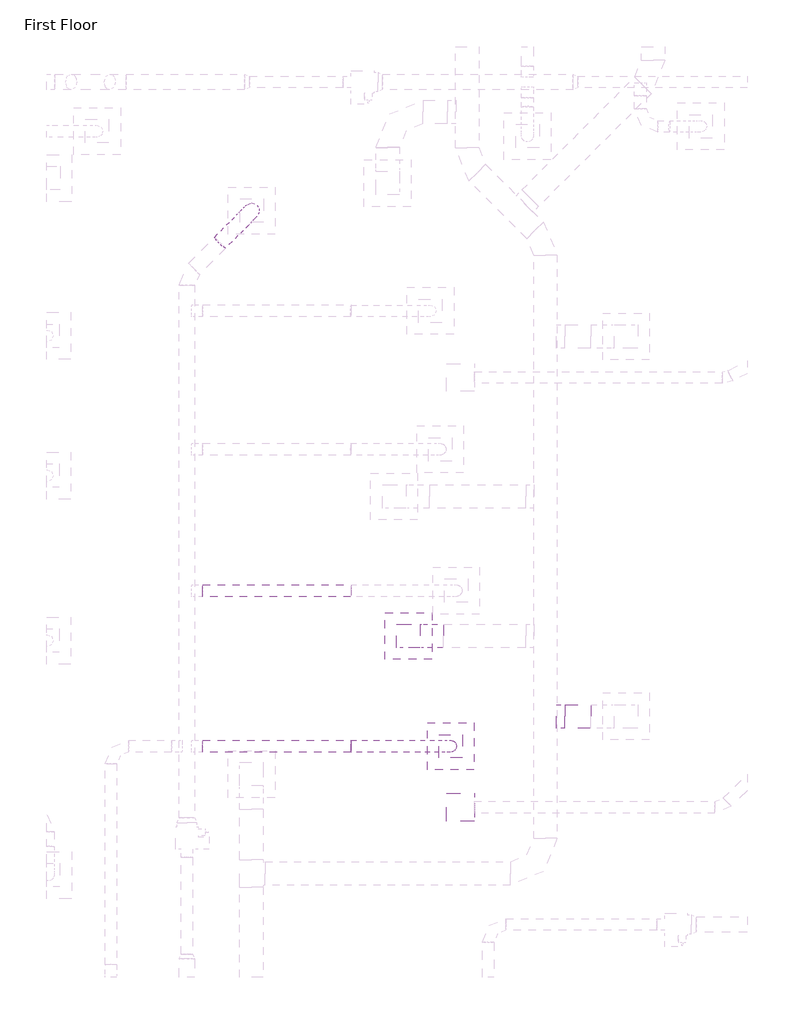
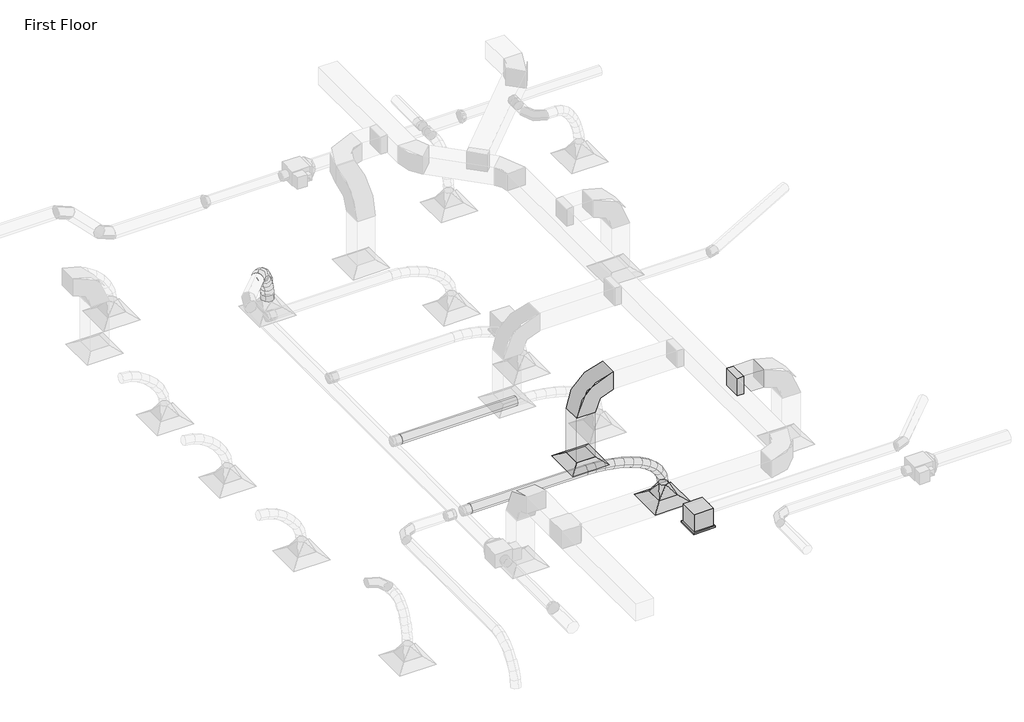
# One storey, part 28 of 61: 6 duct segments, 3 duct fittings, 2 air terminals, 1 proxy.
"""IFC4 building model written with IfcOpenShell, lengths in millimetres."""

from ifc_helpers import new_model, si_unit, point, frame, frame_2d, origin, place, context, project, spatial, polyline, circle_curve, ellipse_curve, trimmed, segment, composite_curve, outline, extrude, transform, mapped, element, save
from ifc_brep_helpers import plane_surface, cylinder_surface, advanced_brep
from components import m_exhaust_grill_er_600_x_600_face_300_x_300_connection_ff221211, proxy_47_84_lps_344db5a5, m_rectangular_elbow_radius_1_5_w_86011e9f, m_rectangular_takeoff_standard_b44bfa45, m_rectangular_to_round_transition_angle_45_degree_8f201c83

model = new_model("IFC4")

# Units and contexts
model_context = context("Model", 3, world=origin())
ifc_project = project(units=[si_unit("LENGTHUNIT", "METRE", prefix="MILLI")], contexts=[model_context])

# Site, building, storey
site = spatial("IfcSite", under=ifc_project)
building = spatial("IfcBuilding", under=site)
storey = spatial("IfcBuildingStorey", under=building, Name="First Floor", Elevation=0.0)

# Air terminals
placement = place(None, origin())
m_exhaust_grill_er_600_x_600_face_300_x_300_connection_shape = m_exhaust_grill_er_600_x_600_face_300_x_300_connection_ff221211(model_context)
element("IfcAirTerminal", 1, ObjectType="M_Return Register : RR-600 x 600 Face 300 x 300 Connection", at=placement, inside=storey, context=model_context, shape_type="MappedRepresentation", body=[
    mapped(m_exhaust_grill_er_600_x_600_face_300_x_300_connection_shape, transform((-6254.2683019, 18610.0, 2680.0), x_axis=(1.0, 0.0, 0.0), y_axis=(0.0, 1.0, 0.0), z_axis=(0.0, 0.0, 1.0))),
])
element("IfcAirTerminal", 2, ObjectType="M_Supply Diffuser : SD-600 x 600 Face 300 x 300 Connection", at=placement, inside=storey, context=model_context, shape_type="MappedRepresentation", body=[
    mapped(m_exhaust_grill_er_600_x_600_face_300_x_300_connection_shape, transform((-5713.0564369, 17198.591812, 2680.0), x_axis=(1.0, 0.0, 0.0), y_axis=(0.0, 1.0, 0.0), z_axis=(0.0, 0.0, 1.0))),
])

# Proxy
proxy_47_84_lps_shape = proxy_47_84_lps_344db5a5(model_context)
element("IfcBuildingElementProxy", 3, Name="M_Exhaust Unit with Cabinet - Round Connection - Ceiling Mounted : 47-84 LPS", ObjectType="M_Exhaust Unit with Cabinet - Round Connection - Ceiling Mounted : 47-84 LPS", at=placement, inside=storey, context=model_context, shape_type="MappedRepresentation", body=[
    mapped(proxy_47_84_lps_shape, transform((-5586.8009033, 16417.4766608, 2680.0), x_axis=(0.0, 1.0000000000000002, 0.0), y_axis=(-1.0000000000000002, 0.0, 0.0), z_axis=(0.0, 0.0, 1.0))),
])

# Duct fittings
m_rectangular_elbow_radius_1_5_w_shape = m_rectangular_elbow_radius_1_5_w_86011e9f(model_context)
element("IfcDuctFitting", 4, ObjectType="M_Rectangular Elbow - Radius : 1.5 W", at=placement, inside=storey, context=model_context, shape_type="MappedRepresentation", body=[
    mapped(m_rectangular_elbow_radius_1_5_w_shape, transform((-6254.2683019, 18610.0, 4000.0), x_axis=(0.0, 0.0, 1.0), y_axis=(1.0, 0.0, 0.0), z_axis=(0.0, 1.0, 0.0))),
])
m_rectangular_takeoff_standard_shape = m_rectangular_takeoff_standard_b44bfa45(model_context)
element("IfcDuctFitting", 5, ObjectType="M_Rectangular Takeoff : Standard", at=placement, inside=storey, context=model_context, shape_type="MappedRepresentation", body=[
    mapped(m_rectangular_takeoff_standard_shape, transform((-4350.4325102, 17580.7276944, 4000.0), x_axis=(1.0, 0.0, 0.0), y_axis=(0.0, -1.0, 0.0), z_axis=(0.0, 0.0, -1.0))),
])
m_rectangular_to_round_transition_angle_45_degree_shape = m_rectangular_to_round_transition_angle_45_degree_8f201c83(model_context)
element("IfcDuctFitting", 6, ObjectType="M_Rectangular to Round Transition - Angle : 45 Degree", at=placement, inside=storey, context=model_context, shape_type="MappedRepresentation", body=[
    mapped(m_rectangular_to_round_transition_angle_45_degree_shape, transform((-5713.0564369, 17198.591812, 2781.6), x_axis=(0.0, 0.0, 1.0), y_axis=(1.0, 0.0, 0.0), z_axis=(0.0, 1.0, 0.0))),
])

# Duct segments
element("IfcDuctSegment", 7, ObjectType="Flex - Round", at=placement, inside=storey, context=model_context, shape_type="AdvancedBrep", body=[
    advanced_brep(
    [(-8735.81417, 23715.3332719, 3619.1), (-8676.2915726, 23633.4049746, 3520.384173), (-8594.2072631, 23574.09771, 3619.1), (-8653.7298606, 23656.0260072, 3717.815827), (-8656.3191201, 23795.0373349, 3600.8834043), (-8606.6838584, 23703.1957056, 3504.4332982), (-8514.5612305, 23653.9531528, 3600.848806), (-8564.1964922, 23745.7947821, 3697.2989121), (-8331.7376894, 24124.2770089, 2902.384291), (-8190.6783132, 24124.6067456, 2912.4909056), (-8189.6139432, 23983.5616256, 2902.2370652), (-8330.6733194, 23983.2318889, 2892.1304507), (-8581.4352587, 23870.4719152, 3550.2782946), (-8547.952452, 23762.3590408, 3464.7437147), (-8439.449156, 23729.6176245, 3550.0894742), (-8472.9319628, 23837.7304989, 3635.624054), (-8512.9323303, 23939.7539297, 3473.2464368), (-8490.5780955, 23820.3859177, 3400.2259872), (-8370.8226299, 23799.0246424, 3472.9186301), (-8393.1768647, 23918.3926544, 3545.9390797), (-8452.6886003, 24000.8911623, 3375.7989694), (-8438.0488633, 23873.6942353, 3315.2571341), (-8310.5247218, 23860.2168566, 3375.3835269), (-8325.1644589, 23987.4137836, 3435.9253622), (-8402.5778311, 24051.8957382, 3263.9591631), (-8393.545166, 23918.9917281, 3215.9314808), (-8260.4030043, 23911.2325762, 3263.5192854), (-8269.4356694, 24044.1365863, 3311.5469677), (-8364.4690387, 24090.7844791, 3143.751017), (-8359.6843909, 23953.5455101, 3109.1230323), (-8222.3097962, 23950.1054137, 3143.3602978), (-8227.094444, 24087.3443826, 3177.9882825), (-8340.2297836, 24115.5756147, 3021.1934802), (-8338.5426719, 23975.1685848, 3002.2271316), (-8198.0988721, 23974.8675734, 3020.9460067), (-8199.7859838, 24115.2746032, 3039.9123553)],
    [
        (0, 1, circle_curve(frame((-8665.0107166, 23644.7154909, 3619.1), z_axis=(-0.6971092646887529, -0.6989421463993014, 0.15974526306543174), x_axis=(-0.7080345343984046, 0.7061778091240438, 0.0)), 100.0)),
        (1, 2, circle_curve(frame((-8665.0107166, 23644.7154909, 3619.1), z_axis=(-0.6971092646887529, -0.6989421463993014, 0.15974526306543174), x_axis=(-0.7080345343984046, 0.7061778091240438, 0.0)), 100.0)),
        (2, 3, circle_curve(frame((-8665.0107166, 23644.7154909, 3619.1), z_axis=(-0.6971092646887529, -0.6989421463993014, 0.15974526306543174), x_axis=(-0.7080345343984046, 0.7061778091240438, 0.0)), 100.0)),
        (3, 0, circle_curve(frame((-8665.0107166, 23644.7154909, 3619.1), z_axis=(-0.6971092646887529, -0.6989421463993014, 0.15974526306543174), x_axis=(-0.7080345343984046, 0.7061778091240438, 0.0)), 100.0)),
        (0, 4),
        (4, 5, ellipse_curve(frame((-8585.4401753, 23724.4952438, 3600.8661051), z_axis=(-0.6733778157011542, -0.6766663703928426, 0.29780016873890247), x_axis=(-0.21561036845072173, -0.2055554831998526, -0.9545989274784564)), 101.0161492, 100.0)),
        (5, 1),
        (5, 6, ellipse_curve(frame((-8585.4401753, 23724.4952438, 3600.8661051), z_axis=(-0.6733778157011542, -0.6766663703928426, 0.29780016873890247), x_axis=(-0.21561036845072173, -0.2055554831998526, -0.9545989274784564)), 101.0161492, 100.0)),
        (6, 2),
        (6, 7, ellipse_curve(frame((-8585.4401753, 23724.4952438, 3600.8661051), z_axis=(-0.6733778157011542, -0.6766663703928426, 0.29780016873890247), x_axis=(-0.21561036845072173, -0.2055554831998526, -0.9545989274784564)), 101.0161492, 100.0)),
        (7, 3),
        (7, 4, ellipse_curve(frame((-8585.4401753, 23724.4952438, 3600.8661051), z_axis=(-0.6733778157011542, -0.6766663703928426, 0.29780016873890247), x_axis=(-0.21561036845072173, -0.2055554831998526, -0.9545989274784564)), 101.0161492, 100.0)),
        (8, 9, circle_curve(frame((-8260.6758163, 24053.9193172, 2902.3106781), z_axis=(0.07110537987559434, 0.07285787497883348, -0.9948043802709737), x_axis=(-0.710618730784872, 0.7035769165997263, 0.0007361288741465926)), 100.0)),
        (9, 10, circle_curve(frame((-8260.6758163, 24053.9193172, 2902.3106781), z_axis=(0.07110537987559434, 0.07285787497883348, -0.9948043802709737), x_axis=(-0.710618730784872, 0.7035769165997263, 0.0007361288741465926)), 100.0)),
        (10, 11, circle_curve(frame((-8260.6758163, 24053.9193172, 2902.3106781), z_axis=(0.07110537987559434, 0.07285787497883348, -0.9948043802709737), x_axis=(-0.710618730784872, 0.7035769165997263, 0.0007361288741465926)), 100.0)),
        (11, 8, circle_curve(frame((-8260.6758163, 24053.9193172, 2902.3106781), z_axis=(0.07110537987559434, 0.07285787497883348, -0.9948043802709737), x_axis=(-0.710618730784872, 0.7035769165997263, 0.0007361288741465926)), 100.0)),
        (4, 12),
        (12, 13, ellipse_curve(frame((-8510.4422074, 23800.0447699, 3550.1838844), z_axis=(-0.5975845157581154, -0.6030946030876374, 0.528365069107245), x_axis=(-0.37717659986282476, -0.3700641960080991, -0.8489937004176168)), 100.6342897, 100.0)),
        (13, 5),
        (13, 14, ellipse_curve(frame((-8510.4422074, 23800.0447699, 3550.1838844), z_axis=(-0.5975845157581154, -0.6030946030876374, 0.528365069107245), x_axis=(-0.37717659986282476, -0.3700641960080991, -0.8489937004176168)), 100.6342897, 100.0)),
        (14, 6),
        (14, 15, ellipse_curve(frame((-8510.4422074, 23800.0447699, 3550.1838844), z_axis=(-0.5975845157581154, -0.6030946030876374, 0.528365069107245), x_axis=(-0.37717659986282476, -0.3700641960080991, -0.8489937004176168)), 100.6342897, 100.0)),
        (15, 7),
        (15, 12, ellipse_curve(frame((-8510.4422074, 23800.0447699, 3550.1838844), z_axis=(-0.5975845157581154, -0.6030946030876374, 0.528365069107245), x_axis=(-0.37717659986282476, -0.3700641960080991, -0.8489937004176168)), 100.6342897, 100.0)),
        (12, 16),
        (16, 17, ellipse_curve(frame((-8441.8774801, 23869.389286, 3473.0825335), z_axis=(-0.5097848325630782, -0.5163880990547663, 0.6880862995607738), x_axis=(-0.4882541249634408, -0.4848661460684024, -0.7256119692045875)), 100.4049703, 100.0)),
        (17, 13),
        (17, 18, ellipse_curve(frame((-8441.8774801, 23869.389286, 3473.0825335), z_axis=(-0.5097848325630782, -0.5163880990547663, 0.6880862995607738), x_axis=(-0.4882541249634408, -0.4848661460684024, -0.7256119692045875)), 100.4049703, 100.0)),
        (18, 14),
        (18, 19, ellipse_curve(frame((-8441.8774801, 23869.389286, 3473.0825335), z_axis=(-0.5097848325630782, -0.5163880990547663, 0.6880862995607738), x_axis=(-0.4882541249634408, -0.4848661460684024, -0.7256119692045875)), 100.4049703, 100.0)),
        (19, 15),
        (19, 16, ellipse_curve(frame((-8441.8774801, 23869.389286, 3473.0825335), z_axis=(-0.5097848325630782, -0.5163880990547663, 0.6880862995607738), x_axis=(-0.4882541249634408, -0.4848661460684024, -0.7256119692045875)), 100.4049703, 100.0)),
        (16, 20),
        (20, 21, ellipse_curve(frame((-8381.6066611, 23930.5540095, 3375.5912482), z_axis=(-0.4219497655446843, -0.42877679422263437, 0.79881716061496), x_axis=(-0.5643732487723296, -0.565334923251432, -0.6015640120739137)), 100.2943754, 100.0)),
        (21, 17),
        (21, 22, ellipse_curve(frame((-8381.6066611, 23930.5540095, 3375.5912482), z_axis=(-0.4219497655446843, -0.42877679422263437, 0.79881716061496), x_axis=(-0.5643732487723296, -0.565334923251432, -0.6015640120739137)), 100.2943754, 100.0)),
        (22, 18),
        (22, 23, ellipse_curve(frame((-8381.6066611, 23930.5540095, 3375.5912482), z_axis=(-0.4219497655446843, -0.42877679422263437, 0.79881716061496), x_axis=(-0.5643732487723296, -0.565334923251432, -0.6015640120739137)), 100.2943754, 100.0)),
        (23, 19),
        (23, 20, ellipse_curve(frame((-8381.6066611, 23930.5540095, 3375.5912482), z_axis=(-0.4219497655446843, -0.42877679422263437, 0.79881716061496), x_axis=(-0.5643732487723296, -0.565334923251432, -0.6015640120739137)), 100.2943754, 100.0)),
        (20, 24),
        (24, 25, ellipse_curve(frame((-8331.4904177, 23981.5641572, 3263.7392242), z_axis=(-0.3340012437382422, -0.3403393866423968, 0.8789836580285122), x_axis=(-0.6186606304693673, -0.6243999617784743, -0.4768476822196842)), 100.258072, 100.0)),
        (25, 21),
        (25, 26, ellipse_curve(frame((-8331.4904177, 23981.5641572, 3263.7392242), z_axis=(-0.3340012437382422, -0.3403393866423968, 0.8789836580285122), x_axis=(-0.6186606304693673, -0.6243999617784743, -0.4768476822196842)), 100.258072, 100.0)),
        (26, 22),
        (26, 27, ellipse_curve(frame((-8331.4904177, 23981.5641572, 3263.7392242), z_axis=(-0.3340012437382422, -0.3403393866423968, 0.8789836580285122), x_axis=(-0.6186606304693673, -0.6243999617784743, -0.4768476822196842)), 100.258072, 100.0)),
        (27, 23),
        (27, 24, ellipse_curve(frame((-8331.4904177, 23981.5641572, 3263.7392242), z_axis=(-0.3340012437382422, -0.3403393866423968, 0.8789836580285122), x_axis=(-0.6186606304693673, -0.6243999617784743, -0.4768476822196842)), 100.258072, 100.0)),
        (24, 28),
        (28, 29, ellipse_curve(frame((-8293.3894175, 24020.4449464, 3143.5556574), z_axis=(-0.24021689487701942, -0.2453528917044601, 0.9392006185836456), x_axis=(-0.6588179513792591, -0.6693709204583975, -0.3433678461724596)), 100.2804284, 100.0)),
        (29, 25),
        (29, 30, ellipse_curve(frame((-8293.3894175, 24020.4449464, 3143.5556574), z_axis=(-0.24021689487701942, -0.2453528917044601, 0.9392006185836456), x_axis=(-0.6588179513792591, -0.6693709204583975, -0.3433678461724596)), 100.2804284, 100.0)),
        (30, 26),
        (30, 31, ellipse_curve(frame((-8293.3894175, 24020.4449464, 3143.5556574), z_axis=(-0.24021689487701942, -0.2453528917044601, 0.9392006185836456), x_axis=(-0.6588179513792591, -0.6693709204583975, -0.3433678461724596)), 100.2804284, 100.0)),
        (31, 27),
        (31, 28, ellipse_curve(frame((-8293.3894175, 24020.4449464, 3143.5556574), z_axis=(-0.24021689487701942, -0.2453528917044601, 0.9392006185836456), x_axis=(-0.6588179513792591, -0.6693709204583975, -0.3433678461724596)), 100.2804284, 100.0)),
        (28, 32),
        (32, 33, ellipse_curve(frame((-8269.1643278, 24045.221594, 3021.0697434), z_axis=(-0.13120205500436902, -0.134256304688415, 0.9822226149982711), x_axis=(-0.6870598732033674, -0.7019330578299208, -0.1877197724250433)), 100.3784105, 100.0)),
        (33, 29),
        (33, 34, ellipse_curve(frame((-8269.1643278, 24045.221594, 3021.0697434), z_axis=(-0.13120205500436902, -0.134256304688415, 0.9822226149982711), x_axis=(-0.6870598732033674, -0.7019330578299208, -0.1877197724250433)), 100.3784105, 100.0)),
        (34, 30),
        (34, 35, ellipse_curve(frame((-8269.1643278, 24045.221594, 3021.0697434), z_axis=(-0.13120205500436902, -0.134256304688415, 0.9822226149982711), x_axis=(-0.6870598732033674, -0.7019330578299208, -0.1877197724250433)), 100.3784105, 100.0)),
        (35, 31),
        (35, 32, ellipse_curve(frame((-8269.1643278, 24045.221594, 3021.0697434), z_axis=(-0.13120205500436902, -0.134256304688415, 0.9822226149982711), x_axis=(-0.6870598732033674, -0.7019330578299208, -0.1877197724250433)), 100.3784105, 100.0)),
        (32, 8),
        (11, 33),
        (10, 34),
        (9, 35),
    ],
    [
        plane_surface(frame((-8665.0107166, 23666.9962556, 3716.5862427), z_axis=(-0.6971092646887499, -0.6989421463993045, 0.15974526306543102), x_axis=(0.7169649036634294, -0.6795856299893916, 0.15532127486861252))),
        cylinder_surface(frame((-8665.0107166, 23644.7154909, 3619.1), z_axis=(-0.6971092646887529, -0.6989421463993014, 0.15974526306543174), x_axis=(-0.7080345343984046, 0.7061778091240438, 0.0)), 100.0),
        plane_surface(frame((-8260.6758163, 24153.6521982, 2909.6149541), z_axis=(0.07110537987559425, 0.07285787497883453, -0.9948043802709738), x_axis=(0.9974688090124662, -0.005193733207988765, 0.0709154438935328))),
        cylinder_surface(frame((-8585.4401753, 23724.4952438, 3600.8661051), z_axis=(-0.6360989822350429, -0.6407770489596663, 0.4298637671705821), x_axis=(-0.7094782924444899, 0.7047270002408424, 0.0006384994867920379)), 100.0),
        cylinder_surface(frame((-8510.4422074, 23800.0447699, 3550.1838844), z_axis=(-0.551536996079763, -0.5578096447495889, 0.6202058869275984), x_axis=(-0.7103226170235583, 0.7038748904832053, 0.0013850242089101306)), 100.0),
        cylinder_surface(frame((-8441.8774801, 23869.389286, 3473.0825335), z_axis=(-0.4639203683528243, -0.47080098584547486, 0.7504161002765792), x_axis=(-0.7107385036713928, 0.7034536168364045, 0.0019463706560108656)), 100.0),
        cylinder_surface(frame((-8381.6066611, 23930.5540095, 3375.5912482), z_axis=(-0.3775022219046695, -0.3842355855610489, 0.8425289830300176), x_axis=(-0.7108852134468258, 0.7033045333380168, 0.002224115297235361)), 100.0),
        cylinder_surface(frame((-8331.4904177, 23981.5641572, 3263.7392242), z_axis=(-0.2887807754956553, -0.2946910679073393, 0.9109131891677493), x_axis=(-0.710865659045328, 0.7033244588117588, 0.002172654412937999)), 100.0),
        cylinder_surface(frame((-8293.3894175, 24020.4449464, 3143.5556574), z_axis=(-0.1903095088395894, -0.1946424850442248, 0.9622352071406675), x_axis=(-0.710750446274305, 0.7034421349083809, 0.0017221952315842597)), 100.0),
        cylinder_surface(frame((-8269.1643278, 24045.221594, 3021.0697434), z_axis=(-0.07110537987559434, -0.07285787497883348, 0.9948043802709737), x_axis=(-0.710618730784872, 0.7035769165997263, 0.0007361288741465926)), 100.0),
    ],
    [
        (0, [[1, 2, 3, 4]]),
        (1, [[-1, 5, 6, 7]]),
        (1, [[-2, -7, 8, 9]]),
        (1, [[-3, -9, 10, 11]]),
        (1, [[-4, -11, 12, -5]]),
        (2, [[13, 14, 15, 16]]),
        (3, [[-6, 17, 18, 19]]),
        (3, [[-8, -19, 20, 21]]),
        (3, [[-10, -21, 22, 23]]),
        (3, [[-12, -23, 24, -17]]),
        (4, [[-18, 25, 26, 27]]),
        (4, [[-20, -27, 28, 29]]),
        (4, [[-22, -29, 30, 31]]),
        (4, [[-24, -31, 32, -25]]),
        (5, [[-26, 33, 34, 35]]),
        (5, [[-28, -35, 36, 37]]),
        (5, [[-30, -37, 38, 39]]),
        (5, [[-32, -39, 40, -33]]),
        (6, [[-34, 41, 42, 43]]),
        (6, [[-36, -43, 44, 45]]),
        (6, [[-38, -45, 46, 47]]),
        (6, [[-40, -47, 48, -41]]),
        (7, [[-42, 49, 50, 51]]),
        (7, [[-44, -51, 52, 53]]),
        (7, [[-46, -53, 54, 55]]),
        (7, [[-48, -55, 56, -49]]),
        (8, [[-50, 57, 58, 59]]),
        (8, [[-52, -59, 60, 61]]),
        (8, [[-54, -61, 62, 63]]),
        (8, [[-56, -63, 64, -57]]),
        (9, [[-58, 65, -16, 66]]),
        (9, [[-60, -66, -15, 67]]),
        (9, [[-62, -67, -14, 68]]),
        (9, [[-64, -68, -13, -65]]),
    ],
),
])
element("IfcDuctSegment", 8, ObjectType="Flex - Round", at=placement, inside=storey, context=model_context, shape_type="AdvancedBrep", body=[
    advanced_brep(
    [(-6989.2747853, 17273.591812, 3619.1), (-6991.7306327, 17198.591812, 3544.1402187), (-6989.2747853, 17123.591812, 3619.1), (-6986.8189379, 17198.591812, 3694.0597813), (-6851.7261844, 17273.591812, 3614.5936051), (-6856.4533786, 17198.591812, 3539.7082381), (-6851.7261844, 17123.591812, 3614.5936051), (-6846.9989901, 17198.591812, 3689.4789721), (-5713.0564369, 17273.591812, 2962.6660172), (-5638.9286616, 17198.591812, 2974.070969), (-5713.0564369, 17123.591812, 2962.6660172), (-5787.1842122, 17198.591812, 2951.2610653), (-6703.3734425, 17273.591812, 3600.7069488), (-6712.6040329, 17198.591812, 3526.2431252), (-6703.3734425, 17123.591812, 3600.7069488), (-6694.1428522, 17198.591812, 3675.1707724), (-6549.2531901, 17273.591812, 3576.8888233), (-6563.1049949, 17198.591812, 3503.1391736), (-6549.2531901, 17123.591812, 3576.8888233), (-6535.4013853, 17198.591812, 3650.638473), (-6394.4020575, 17273.591812, 3542.5880212), (-6413.3512998, 17198.591812, 3469.9674959), (-6394.4020575, 17123.591812, 3542.5880212), (-6375.4528153, 17198.591812, 3615.2085465), (-6243.8566752, 17273.591812, 3497.2533346), (-6268.7410001, 17198.591812, 3426.4200785), (-6243.8566752, 17123.591812, 3497.2533346), (-6218.9723503, 17198.591812, 3568.0865908), (-6102.6536734, 17273.591812, 3440.3335561), (-6134.7133836, 17198.591812, 3372.3927409), (-6102.6536734, 17123.591812, 3440.3335561), (-6070.5939633, 17198.591812, 3508.2743714), (-5975.8296826, 17273.591812, 3371.277478), (-6016.7084769, 17198.591812, 3308.1386829), (-5975.8296826, 17123.591812, 3371.277478), (-5934.9508884, 17198.591812, 3434.4162731), (-5868.4213332, 17273.591812, 3289.5338927), (-5919.9012576, 17198.591812, 3234.4631332), (-5868.4213332, 17123.591812, 3289.5338927), (-5816.9414088, 17198.591812, 3344.6046522), (-5785.4652555, 17273.591812, 3194.5515925), (-5848.4300808, 17198.591812, 3152.630711), (-5785.4652555, 17123.591812, 3194.5515925), (-5722.5004303, 17198.591812, 3236.472474), (-5731.9980799, 17273.591812, 3085.7793699), (-5804.3776139, 17198.591812, 3063.0115254), (-5731.9980799, 17123.591812, 3085.7793699), (-5659.618546, 17198.591812, 3108.5472144)],
    [
        (0, 1, circle_curve(frame((-6989.2747853, 17198.591812, 3619.1), z_axis=(-0.9994637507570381, 0.0, 0.032744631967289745), x_axis=(0.0, 1.0, 0.0)), 75.0)),
        (1, 2, circle_curve(frame((-6989.2747853, 17198.591812, 3619.1), z_axis=(-0.9994637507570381, 0.0, 0.032744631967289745), x_axis=(0.0, 1.0, 0.0)), 75.0)),
        (2, 3, circle_curve(frame((-6989.2747853, 17198.591812, 3619.1), z_axis=(-0.9994637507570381, 0.0, 0.032744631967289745), x_axis=(0.0, 1.0, 0.0)), 75.0)),
        (3, 0, circle_curve(frame((-6989.2747853, 17198.591812, 3619.1), z_axis=(-0.9994637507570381, 0.0, 0.032744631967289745), x_axis=(0.0, 1.0, 0.0)), 75.0)),
        (0, 4),
        (4, 5, ellipse_curve(frame((-6851.7261844, 17198.591812, 3614.5936051), z_axis=(-0.998013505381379, 0.0, 0.06300034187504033), x_axis=(-0.06300034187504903, 0.0, -0.9980135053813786)), 75.0344225, 75.0)),
        (5, 1),
        (5, 6, ellipse_curve(frame((-6851.7261844, 17198.591812, 3614.5936051), z_axis=(-0.998013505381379, 0.0, 0.06300034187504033), x_axis=(-0.06300034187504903, 0.0, -0.9980135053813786)), 75.0344225, 75.0)),
        (6, 2),
        (6, 7, ellipse_curve(frame((-6851.7261844, 17198.591812, 3614.5936051), z_axis=(-0.998013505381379, 0.0, 0.06300034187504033), x_axis=(-0.06300034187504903, 0.0, -0.9980135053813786)), 75.0344225, 75.0)),
        (7, 3),
        (7, 4, ellipse_curve(frame((-6851.7261844, 17198.591812, 3614.5936051), z_axis=(-0.998013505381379, 0.0, 0.06300034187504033), x_axis=(-0.06300034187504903, 0.0, -0.9980135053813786)), 75.0344225, 75.0)),
        (8, 9, circle_curve(frame((-5713.0564369, 17198.591812, 2962.6660172), z_axis=(0.15206602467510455, 0.0, -0.9883703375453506), x_axis=(0.0, 1.0, 0.0)), 75.0)),
        (9, 10, circle_curve(frame((-5713.0564369, 17198.591812, 2962.6660172), z_axis=(0.15206602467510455, 0.0, -0.9883703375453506), x_axis=(0.0, 1.0, 0.0)), 75.0)),
        (10, 11, circle_curve(frame((-5713.0564369, 17198.591812, 2962.6660172), z_axis=(0.15206602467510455, 0.0, -0.9883703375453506), x_axis=(0.0, 1.0, 0.0)), 75.0)),
        (11, 8, circle_curve(frame((-5713.0564369, 17198.591812, 2962.6660172), z_axis=(0.15206602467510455, 0.0, -0.9883703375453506), x_axis=(0.0, 1.0, 0.0)), 75.0)),
        (4, 12),
        (12, 13, ellipse_curve(frame((-6703.3734425, 17198.591812, 3600.7069488), z_axis=(-0.992404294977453, 0.0, 0.12301916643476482), x_axis=(-0.12301916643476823, 0.0, -0.9924042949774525)), 75.0337579, 75.0)),
        (13, 5),
        (13, 14, ellipse_curve(frame((-6703.3734425, 17198.591812, 3600.7069488), z_axis=(-0.992404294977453, 0.0, 0.12301916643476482), x_axis=(-0.12301916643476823, 0.0, -0.9924042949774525)), 75.0337579, 75.0)),
        (14, 6),
        (14, 15, ellipse_curve(frame((-6703.3734425, 17198.591812, 3600.7069488), z_axis=(-0.992404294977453, 0.0, 0.12301916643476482), x_axis=(-0.12301916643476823, 0.0, -0.9924042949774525)), 75.0337579, 75.0)),
        (15, 7),
        (15, 12, ellipse_curve(frame((-6703.3734425, 17198.591812, 3600.7069488), z_axis=(-0.992404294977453, 0.0, 0.12301916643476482), x_axis=(-0.12301916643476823, 0.0, -0.9924042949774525)), 75.0337579, 75.0)),
        (12, 16),
        (16, 17, ellipse_curve(frame((-6549.2531901, 17198.591812, 3576.8888233), z_axis=(-0.9828148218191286, 0.0, 0.18459421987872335), x_axis=(-0.18459421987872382, 0.0, -0.9828148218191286)), 75.0392119, 75.0)),
        (17, 13),
        (17, 18, ellipse_curve(frame((-6549.2531901, 17198.591812, 3576.8888233), z_axis=(-0.9828148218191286, 0.0, 0.18459421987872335), x_axis=(-0.18459421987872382, 0.0, -0.9828148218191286)), 75.0392119, 75.0)),
        (18, 14),
        (18, 19, ellipse_curve(frame((-6549.2531901, 17198.591812, 3576.8888233), z_axis=(-0.9828148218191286, 0.0, 0.18459421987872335), x_axis=(-0.18459421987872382, 0.0, -0.9828148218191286)), 75.0392119, 75.0)),
        (19, 15),
        (19, 16, ellipse_curve(frame((-6549.2531901, 17198.591812, 3576.8888233), z_axis=(-0.9828148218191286, 0.0, 0.18459421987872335), x_axis=(-0.18459421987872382, 0.0, -0.9828148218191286)), 75.0392119, 75.0)),
        (16, 20),
        (20, 21, ellipse_curve(frame((-6394.4020575, 17198.591812, 3542.5880212), z_axis=(-0.9676017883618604, 0.0, 0.25248124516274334), x_axis=(-0.2524812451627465, 0.0, -0.9676017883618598)), 75.0520784, 75.0)),
        (21, 17),
        (21, 22, ellipse_curve(frame((-6394.4020575, 17198.591812, 3542.5880212), z_axis=(-0.9676017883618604, 0.0, 0.25248124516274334), x_axis=(-0.2524812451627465, 0.0, -0.9676017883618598)), 75.0520784, 75.0)),
        (22, 18),
        (22, 23, ellipse_curve(frame((-6394.4020575, 17198.591812, 3542.5880212), z_axis=(-0.9676017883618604, 0.0, 0.25248124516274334), x_axis=(-0.2524812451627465, 0.0, -0.9676017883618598)), 75.0520784, 75.0)),
        (23, 19),
        (23, 20, ellipse_curve(frame((-6394.4020575, 17198.591812, 3542.5880212), z_axis=(-0.9676017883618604, 0.0, 0.25248124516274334), x_axis=(-0.2524812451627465, 0.0, -0.9676017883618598)), 75.0520784, 75.0)),
        (20, 24),
        (24, 25, ellipse_curve(frame((-6243.8566752, 17198.591812, 3497.2533346), z_axis=(-0.9434727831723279, 0.0, 0.3314500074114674), x_axis=(-0.33145000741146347, 0.0, -0.9434727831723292)), 75.077159, 75.0)),
        (25, 21),
        (25, 26, ellipse_curve(frame((-6243.8566752, 17198.591812, 3497.2533346), z_axis=(-0.9434727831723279, 0.0, 0.3314500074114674), x_axis=(-0.33145000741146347, 0.0, -0.9434727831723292)), 75.077159, 75.0)),
        (26, 22),
        (26, 27, ellipse_curve(frame((-6243.8566752, 17198.591812, 3497.2533346), z_axis=(-0.9434727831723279, 0.0, 0.3314500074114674), x_axis=(-0.33145000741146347, 0.0, -0.9434727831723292)), 75.077159, 75.0)),
        (27, 23),
        (27, 24, ellipse_curve(frame((-6243.8566752, 17198.591812, 3497.2533346), z_axis=(-0.9434727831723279, 0.0, 0.3314500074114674), x_axis=(-0.33145000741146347, 0.0, -0.9434727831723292)), 75.077159, 75.0)),
        (24, 28),
        (28, 29, ellipse_curve(frame((-6102.6536734, 17198.591812, 3440.3335561), z_axis=(-0.9043691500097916, 0.0, 0.4267510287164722), x_axis=(-0.42675102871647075, 0.0, -0.9043691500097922)), 75.1250916, 75.0)),
        (29, 25),
        (29, 30, ellipse_curve(frame((-6102.6536734, 17198.591812, 3440.3335561), z_axis=(-0.9043691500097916, 0.0, 0.4267510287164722), x_axis=(-0.42675102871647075, 0.0, -0.9043691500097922)), 75.1250916, 75.0)),
        (30, 26),
        (30, 31, ellipse_curve(frame((-6102.6536734, 17198.591812, 3440.3335561), z_axis=(-0.9043691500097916, 0.0, 0.4267510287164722), x_axis=(-0.42675102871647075, 0.0, -0.9043691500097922)), 75.1250916, 75.0)),
        (31, 27),
        (31, 28, ellipse_curve(frame((-6102.6536734, 17198.591812, 3440.3335561), z_axis=(-0.9043691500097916, 0.0, 0.4267510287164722), x_axis=(-0.42675102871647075, 0.0, -0.9043691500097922)), 75.1250916, 75.0)),
        (28, 32),
        (32, 33, ellipse_curve(frame((-5975.8296826, 17198.591812, 3371.277478), z_axis=(-0.8394228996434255, 0.0, 0.54347879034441), x_axis=(-0.5434787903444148, 0.0, -0.8394228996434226)), 75.2169081, 75.0)),
        (33, 29),
        (33, 34, ellipse_curve(frame((-5975.8296826, 17198.591812, 3371.277478), z_axis=(-0.8394228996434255, 0.0, 0.54347879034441), x_axis=(-0.5434787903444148, 0.0, -0.8394228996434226)), 75.2169081, 75.0)),
        (34, 30),
        (34, 35, ellipse_curve(frame((-5975.8296826, 17198.591812, 3371.277478), z_axis=(-0.8394228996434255, 0.0, 0.54347879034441), x_axis=(-0.5434787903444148, 0.0, -0.8394228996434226)), 75.2169081, 75.0)),
        (35, 31),
        (35, 32, ellipse_curve(frame((-5975.8296826, 17198.591812, 3371.277478), z_axis=(-0.8394228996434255, 0.0, 0.54347879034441), x_axis=(-0.5434787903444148, 0.0, -0.8394228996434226)), 75.2169081, 75.0)),
        (32, 36),
        (36, 37, ellipse_curve(frame((-5868.4213332, 17198.591812, 3289.5338927), z_axis=(-0.7305220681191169, 0.0, 0.682889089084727), x_axis=(-0.6828890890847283, 0.0, -0.7305220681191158)), 75.3854838, 75.0)),
        (37, 33),
        (37, 38, ellipse_curve(frame((-5868.4213332, 17198.591812, 3289.5338927), z_axis=(-0.7305220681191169, 0.0, 0.682889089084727), x_axis=(-0.6828890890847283, 0.0, -0.7305220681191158)), 75.3854838, 75.0)),
        (38, 34),
        (38, 39, ellipse_curve(frame((-5868.4213332, 17198.591812, 3289.5338927), z_axis=(-0.7305220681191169, 0.0, 0.682889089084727), x_axis=(-0.6828890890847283, 0.0, -0.7305220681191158)), 75.3854838, 75.0)),
        (39, 35),
        (39, 36, ellipse_curve(frame((-5868.4213332, 17198.591812, 3289.5338927), z_axis=(-0.7305220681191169, 0.0, 0.682889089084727), x_axis=(-0.6828890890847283, 0.0, -0.7305220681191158)), 75.3854838, 75.0)),
        (36, 40),
        (40, 41, ellipse_curve(frame((-5785.4652555, 17198.591812, 3194.5515925), z_axis=(-0.5541905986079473, 0.0, 0.8323898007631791), x_axis=(-0.8323898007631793, 0.0, -0.5541905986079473)), 75.6434368, 75.0)),
        (41, 37),
        (41, 42, ellipse_curve(frame((-5785.4652555, 17198.591812, 3194.5515925), z_axis=(-0.5541905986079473, 0.0, 0.8323898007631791), x_axis=(-0.8323898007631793, 0.0, -0.5541905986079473)), 75.6434368, 75.0)),
        (42, 38),
        (42, 43, ellipse_curve(frame((-5785.4652555, 17198.591812, 3194.5515925), z_axis=(-0.5541905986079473, 0.0, 0.8323898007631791), x_axis=(-0.8323898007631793, 0.0, -0.5541905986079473)), 75.6434368, 75.0)),
        (43, 39),
        (43, 40, ellipse_curve(frame((-5785.4652555, 17198.591812, 3194.5515925), z_axis=(-0.5541905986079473, 0.0, 0.8323898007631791), x_axis=(-0.8323898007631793, 0.0, -0.5541905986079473)), 75.6434368, 75.0)),
        (40, 44),
        (44, 45, ellipse_curve(frame((-5731.9980799, 17198.591812, 3085.7793699), z_axis=(-0.3000663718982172, 0.0, 0.9539183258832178), x_axis=(-0.9539183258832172, 0.0, -0.3000663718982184)), 75.8760284, 75.0)),
        (45, 41),
        (45, 46, ellipse_curve(frame((-5731.9980799, 17198.591812, 3085.7793699), z_axis=(-0.3000663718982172, 0.0, 0.9539183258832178), x_axis=(-0.9539183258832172, 0.0, -0.3000663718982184)), 75.8760284, 75.0)),
        (46, 42),
        (46, 47, ellipse_curve(frame((-5731.9980799, 17198.591812, 3085.7793699), z_axis=(-0.3000663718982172, 0.0, 0.9539183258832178), x_axis=(-0.9539183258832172, 0.0, -0.3000663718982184)), 75.8760284, 75.0)),
        (47, 43),
        (47, 44, ellipse_curve(frame((-5731.9980799, 17198.591812, 3085.7793699), z_axis=(-0.3000663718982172, 0.0, 0.9539183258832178), x_axis=(-0.9539183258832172, 0.0, -0.3000663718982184)), 75.8760284, 75.0)),
        (44, 8),
        (11, 45),
        (10, 46),
        (9, 47),
    ],
    [
        plane_surface(frame((-6989.2747853, 17273.591812, 3619.1), z_axis=(-0.9994637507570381, 0.0, 0.03274463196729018), x_axis=(0.03274463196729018, 0.0, 0.9994637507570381))),
        cylinder_surface(frame((-6989.2747853, 17198.591812, 3619.1), z_axis=(-0.9994637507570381, 0.0, 0.032744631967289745), x_axis=(0.0, 1.0, 0.0)), 75.0),
        plane_surface(frame((-5713.0564369, 17273.591812, 2962.6660172), z_axis=(0.1520660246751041, 0.0, -0.9883703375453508), x_axis=(0.9883703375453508, 0.0, 0.1520660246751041))),
        cylinder_surface(frame((-6851.7261844, 17198.591812, 3614.5936051), z_axis=(-0.9956475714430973, 0.0, 0.09319824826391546), x_axis=(0.0, 1.0, 0.0)), 75.0),
        cylinder_surface(frame((-6703.3734425, 17198.591812, 3600.7069488), z_axis=(-0.9882680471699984, 0.0, 0.15272939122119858), x_axis=(0.0, 1.0, 0.0)), 75.0),
        cylinder_surface(frame((-6549.2531901, 17198.591812, 3576.8888233), z_axis=(-0.9763344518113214, 0.0, 0.21626612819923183), x_axis=(0.0, 1.0, 0.0)), 75.0),
        cylinder_surface(frame((-6394.4020575, 17198.591812, 3542.5880212), z_axis=(-0.9575262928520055, 0.0, 0.288345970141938), x_axis=(0.0, 1.0, 0.0)), 75.0),
        cylinder_surface(frame((-6243.8566752, 17198.591812, 3497.2533346), z_axis=(-0.9274800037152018, 0.0, 0.37387276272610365), x_axis=(0.0, 1.0, 0.0)), 75.0),
        cylinder_surface(frame((-6102.6536734, 17198.591812, 3440.3335561), z_axis=(-0.8782465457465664, 0.0, 0.478208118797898), x_axis=(0.0, 1.0, 0.0)), 75.0),
        cylinder_surface(frame((-5975.8296826, 17198.591812, 3371.277478), z_axis=(-0.7957578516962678, 0.0, 0.6056149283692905), x_axis=(0.0, 1.0, 0.0)), 75.0),
        cylinder_surface(frame((-5868.4213332, 17198.591812, 3289.5338927), z_axis=(-0.657815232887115, 0.0, 0.7531793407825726), x_axis=(0.0, 1.0, 0.0)), 75.0),
        cylinder_surface(frame((-5785.4652555, 17198.591812, 3194.5515925), z_axis=(-0.4411378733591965, 0.0, 0.8974393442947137), x_axis=(0.0, 1.0, 0.0)), 75.0),
        cylinder_surface(frame((-5731.9980799, 17198.591812, 3085.7793699), z_axis=(-0.15206602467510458, 0.0, 0.9883703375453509), x_axis=(0.0, 1.0, 0.0)), 75.0),
    ],
    [
        (0, [[1, 2, 3, 4]]),
        (1, [[-1, 5, 6, 7]]),
        (1, [[-2, -7, 8, 9]]),
        (1, [[-3, -9, 10, 11]]),
        (1, [[-4, -11, 12, -5]]),
        (2, [[13, 14, 15, 16]]),
        (3, [[-6, 17, 18, 19]]),
        (3, [[-8, -19, 20, 21]]),
        (3, [[-10, -21, 22, 23]]),
        (3, [[-12, -23, 24, -17]]),
        (4, [[-18, 25, 26, 27]]),
        (4, [[-20, -27, 28, 29]]),
        (4, [[-22, -29, 30, 31]]),
        (4, [[-24, -31, 32, -25]]),
        (5, [[-26, 33, 34, 35]]),
        (5, [[-28, -35, 36, 37]]),
        (5, [[-30, -37, 38, 39]]),
        (5, [[-32, -39, 40, -33]]),
        (6, [[-34, 41, 42, 43]]),
        (6, [[-36, -43, 44, 45]]),
        (6, [[-38, -45, 46, 47]]),
        (6, [[-40, -47, 48, -41]]),
        (7, [[-42, 49, 50, 51]]),
        (7, [[-44, -51, 52, 53]]),
        (7, [[-46, -53, 54, 55]]),
        (7, [[-48, -55, 56, -49]]),
        (8, [[-50, 57, 58, 59]]),
        (8, [[-52, -59, 60, 61]]),
        (8, [[-54, -61, 62, 63]]),
        (8, [[-56, -63, 64, -57]]),
        (9, [[-58, 65, 66, 67]]),
        (9, [[-60, -67, 68, 69]]),
        (9, [[-62, -69, 70, 71]]),
        (9, [[-64, -71, 72, -65]]),
        (10, [[-66, 73, 74, 75]]),
        (10, [[-68, -75, 76, 77]]),
        (10, [[-70, -77, 78, 79]]),
        (10, [[-72, -79, 80, -73]]),
        (11, [[-74, 81, 82, 83]]),
        (11, [[-76, -83, 84, 85]]),
        (11, [[-78, -85, 86, 87]]),
        (11, [[-80, -87, 88, -81]]),
        (12, [[-82, 89, -16, 90]]),
        (12, [[-84, -90, -15, 91]]),
        (12, [[-86, -91, -14, 92]]),
        (12, [[-88, -92, -13, -89]]),
    ],
),
])
element("IfcDuctSegment", 9, ObjectType="Radius Elbows / Taps", at=placement, inside=storey, context=model_context, shape_type="SweptSolid", body=[
    extrude(outline(polyline([(-6104.2683019, 18760.0), (-6104.2683019, 18460.0), (-6404.2683019, 18460.0), (-6404.2683019, 18760.0), (-6104.2683019, 18760.0)])), frame((0.0, 0.0, 2781.6), z_axis=(0.0, 0.0, 1.0), x_axis=(1.0, 0.0, 0.0)), (0.0, 0.0, 1.0), 768.4),
])
element("IfcDuctSegment", 10, ObjectType="Radius Elbows / Taps", at=placement, inside=storey, context=model_context, shape_type="SweptSolid", body=[
    extrude(outline(polyline([(-3917.2135398, 17730.7276944), (-3917.2135398, 17430.7276944), (-4250.4325102, 17430.7276944), (-4250.4325102, 17730.7276944), (-3917.2135398, 17730.7276944)])), frame((0.0, 0.0, 3850.0), z_axis=(0.0, 0.0, 1.0), x_axis=(1.0, 0.0, 0.0)), (0.0, 0.0, 1.0), 300.0),
])
element("IfcDuctSegment", 11, ObjectType="Taps", at=placement, inside=storey, context=model_context, shape_type="SweptSolid", body=[
    extrude(outline(composite_curve([segment(trimmed(circle_curve(frame_2d((19189.4526186, 3619.1)), 75.0), [point((19114.4526186, 3619.1))], [point((19189.4526186, 3694.1))], False, "CARTESIAN"), True, "CONTINUOUS"), segment(trimmed(circle_curve(frame_2d((19189.4526186, 3619.1)), 75.0), [point((19189.4526186, 3694.1))], [point((19264.4526186, 3619.1))], False, "CARTESIAN"), True, "CONTINUOUS"), segment(trimmed(circle_curve(frame_2d((19189.4526186, 3619.1)), 75.0), [point((19264.4526186, 3619.1))], [point((19189.4526186, 3544.1))], False, "CARTESIAN"), True, "CONTINUOUS"), segment(trimmed(circle_curve(frame_2d((19189.4526186, 3619.1)), 75.0), [point((19189.4526186, 3544.1))], [point((19114.4526186, 3619.1))], False, "CARTESIAN"), True, "CONTINUOUS")], self_intersect=False)), frame((-8889.2747853, 0.0, 0.0), z_axis=(1.0, 0.0, 0.0), x_axis=(0.0, 1.0, 0.0)), (0.0, 0.0, 1.0), 1900.0),
])
element("IfcDuctSegment", 12, ObjectType="Taps", at=placement, inside=storey, context=model_context, shape_type="SweptSolid", body=[
    extrude(outline(composite_curve([segment(trimmed(circle_curve(frame_2d((17198.591812, 3619.1)), 75.0), [point((17123.591812, 3619.1))], [point((17198.591812, 3694.1))], False, "CARTESIAN"), True, "CONTINUOUS"), segment(trimmed(circle_curve(frame_2d((17198.591812, 3619.1)), 75.0), [point((17198.591812, 3694.1))], [point((17273.591812, 3619.1))], False, "CARTESIAN"), True, "CONTINUOUS"), segment(trimmed(circle_curve(frame_2d((17198.591812, 3619.1)), 75.0), [point((17273.591812, 3619.1))], [point((17198.591812, 3544.1))], False, "CARTESIAN"), True, "CONTINUOUS"), segment(trimmed(circle_curve(frame_2d((17198.591812, 3619.1)), 75.0), [point((17198.591812, 3544.1))], [point((17123.591812, 3619.1))], False, "CARTESIAN"), True, "CONTINUOUS")], self_intersect=False)), frame((-8889.2747853, 0.0, 0.0), z_axis=(1.0, 0.0, 0.0), x_axis=(0.0, 1.0, 0.0)), (0.0, 0.0, 1.0), 1900.0),
])

save(model, "model.ifc")
